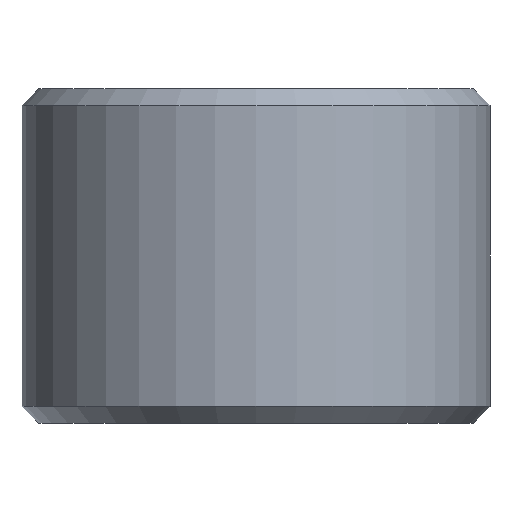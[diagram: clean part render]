
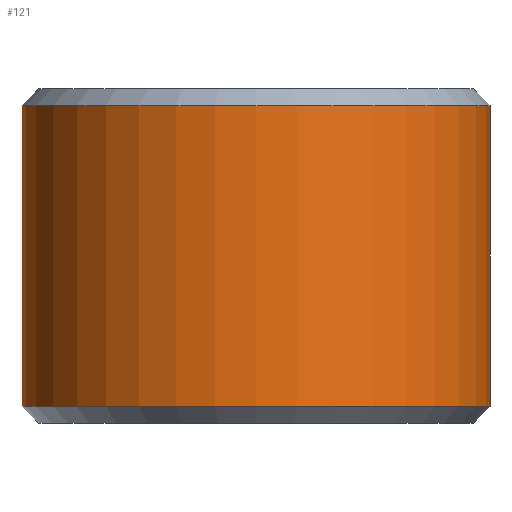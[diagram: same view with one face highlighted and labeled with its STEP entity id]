
A CAD part, front view. The second image highlights one B-rep face of the part: STEP entity #121.
In plain terms, the highlighted cylindrical face has radius 7 mm (diameter 14 mm), a full revolution.
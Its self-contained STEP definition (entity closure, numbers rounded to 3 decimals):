
#21=CYLINDRICAL_SURFACE('',#155,7.);
#25=FACE_OUTER_BOUND('',#33,.T.);
#33=EDGE_LOOP('',(#93,#94,#95,#96,#97,#98));
#44=LINE('',#226,#49);
#49=VECTOR('',#186,7.);
#53=CIRCLE('',#152,7.);
#54=CIRCLE('',#153,7.);
#56=CIRCLE('',#156,7.);
#57=CIRCLE('',#157,7.);
#63=VERTEX_POINT('',#214);
#64=VERTEX_POINT('',#215);
#66=VERTEX_POINT('',#222);
#67=VERTEX_POINT('',#223);
#73=EDGE_CURVE('',#63,#64,#53,.T.);
#74=EDGE_CURVE('',#64,#63,#54,.T.);
#77=EDGE_CURVE('',#66,#67,#56,.T.);
#78=EDGE_CURVE('',#67,#66,#57,.T.);
#79=EDGE_CURVE('',#67,#64,#44,.T.);
#93=ORIENTED_EDGE('',*,*,#77,.F.);
#94=ORIENTED_EDGE('',*,*,#78,.F.);
#95=ORIENTED_EDGE('',*,*,#79,.T.);
#96=ORIENTED_EDGE('',*,*,#73,.F.);
#97=ORIENTED_EDGE('',*,*,#74,.F.);
#98=ORIENTED_EDGE('',*,*,#79,.F.);
#121=ADVANCED_FACE('',(#25),#21,.T.);
#152=AXIS2_PLACEMENT_3D('',#216,#173,#174);
#153=AXIS2_PLACEMENT_3D('',#217,#175,#176);
#155=AXIS2_PLACEMENT_3D('',#221,#180,#181);
#156=AXIS2_PLACEMENT_3D('',#224,#182,#183);
#157=AXIS2_PLACEMENT_3D('',#225,#184,#185);
#173=DIRECTION('center_axis',(0.,0.,-1.));
#174=DIRECTION('ref_axis',(-1.,0.,0.));
#175=DIRECTION('center_axis',(0.,0.,-1.));
#176=DIRECTION('ref_axis',(-1.,0.,0.));
#180=DIRECTION('center_axis',(0.,0.,1.));
#181=DIRECTION('ref_axis',(1.,0.,0.));
#182=DIRECTION('center_axis',(0.,0.,1.));
#183=DIRECTION('ref_axis',(-1.,0.,0.));
#184=DIRECTION('center_axis',(0.,0.,1.));
#185=DIRECTION('ref_axis',(-1.,0.,0.));
#186=DIRECTION('',(0.,0.,-1.));
#214=CARTESIAN_POINT('',(7.,0.,0.5));
#215=CARTESIAN_POINT('',(-7.,0.,0.5));
#216=CARTESIAN_POINT('Origin',(0.,0.,0.5));
#217=CARTESIAN_POINT('Origin',(0.,0.,0.5));
#221=CARTESIAN_POINT('Origin',(0.,0.,0.));
#222=CARTESIAN_POINT('',(7.,0.,9.5));
#223=CARTESIAN_POINT('',(-7.,0.,9.5));
#224=CARTESIAN_POINT('Origin',(0.,0.,9.5));
#225=CARTESIAN_POINT('Origin',(0.,0.,9.5));
#226=CARTESIAN_POINT('',(-7.,0.,0.));
